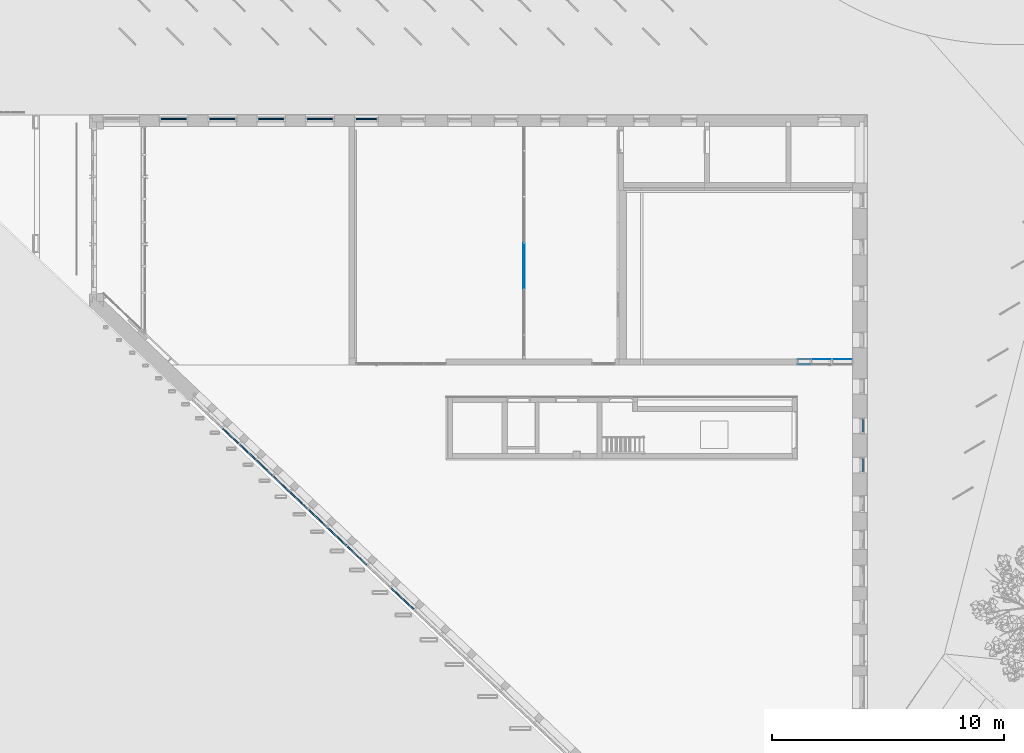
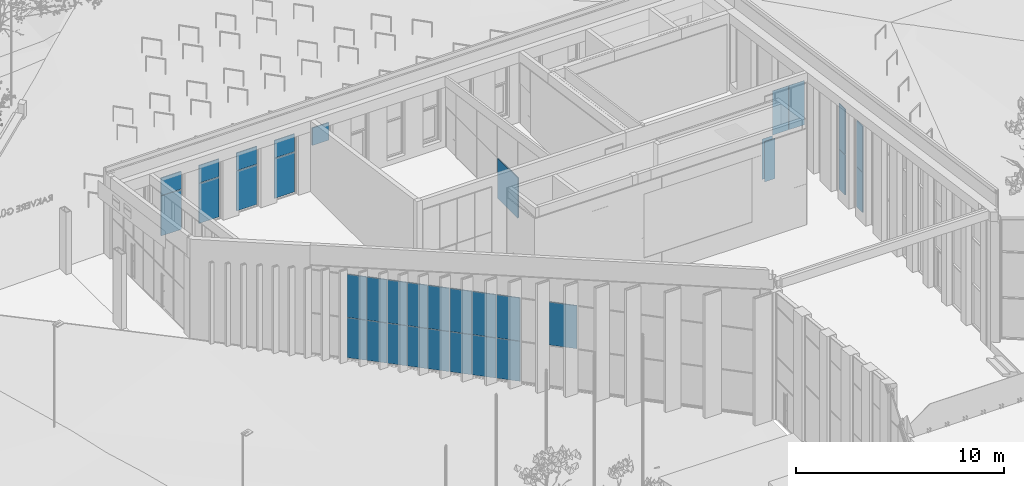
# One storey, part 51 of 246: 35 plates, 11 elements without a shape of their own.
"""IFC2X3 building model written with IfcOpenShell, lengths in millimetres."""

from ifc_helpers import new_model, entity, si_unit, converted_unit, derived_unit, money_unit, direction, frame, origin_with_axes, place, context, subcontext, project, spatial, faceted_brep, source, transform, mapped, material, type_object, element, aggregate, save


model = new_model("IFC2X3")

# Units and contexts
model_context = context("Model", 3, precision=0.01, world=origin_with_axes(), true_north=direction((0.0, 1.0)))
body_context = subcontext(model_context, "Body", "Model", "MODEL_VIEW")
ifc_project = project(units=[si_unit("LENGTHUNIT", "METRE", prefix="MILLI"), si_unit("AREAUNIT", "SQUARE_METRE"), si_unit("VOLUMEUNIT", "CUBIC_METRE"), converted_unit("PLANEANGLEUNIT", "DEGREE", entity("IfcPlaneAngleMeasure", 0.0174532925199), si_unit("PLANEANGLEUNIT", "RADIAN"), dimensions=[0, 0, 0, 0, 0, 0, 0]), si_unit("SOLIDANGLEUNIT", "STERADIAN"), money_unit("EUR"), converted_unit("TIMEUNIT", "Year", entity("IfcTimeMeasure", 31556926.0), si_unit("TIMEUNIT", "SECOND"), dimensions=[0, 0, 1, 0, 0, 0, 0]), si_unit("MASSUNIT", "GRAM", prefix="KILO"), si_unit("THERMODYNAMICTEMPERATUREUNIT", "DEGREE_CELSIUS"), si_unit("LUMINOUSINTENSITYUNIT", "LUMEN"), si_unit("ENERGYUNIT", "JOULE", prefix="MEGA"), derived_unit("THERMALCONDUCTANCEUNIT", [(si_unit("POWERUNIT", "WATT"), 1), (si_unit("LENGTHUNIT", "METRE"), -1), (si_unit("THERMODYNAMICTEMPERATUREUNIT", "KELVIN"), -1)]), derived_unit("SPECIFICHEATCAPACITYUNIT", [(si_unit("ENERGYUNIT", "JOULE"), 1), (si_unit("MASSUNIT", "GRAM", prefix="KILO"), -1), (si_unit("THERMODYNAMICTEMPERATUREUNIT", "KELVIN"), -1)]), derived_unit("MASSDENSITYUNIT", [(si_unit("MASSUNIT", "GRAM", prefix="KILO"), 1), (si_unit("VOLUMEUNIT", "CUBIC_METRE"), -1)])], contexts=[model_context])

# Site, building, storey
site_placement = place(None, origin_with_axes())
site = spatial("IfcSite", under=ifc_project, at=site_placement, Name="L.Koidula tn 11b", CompositionType="ELEMENT")
building_placement = place(site_placement, origin_with_axes())
building = spatial("IfcBuilding", under=site, at=building_placement, Name="Rakvere Riigigümnaasium", CompositionType="ELEMENT")
storey_placement = place(building_placement, origin_with_axes())
storey = spatial("IfcBuildingStorey", under=building, at=storey_placement, Name="1.korrus 0,00", CompositionType="ELEMENT", Elevation=0.0)

# Curtain wall, plates
curtain_wall_type = type_object("IfcCurtainWallType", Name="Curtain Wall Type", PredefinedType="NOTDEFINED")
curtain_wall_1_placement = place(storey_placement, frame((33997.0353268, 45217.6604975, 0.0), z_axis=(0.0, 0.0, 1.0), x_axis=(1.0, 0.0, 0.0)))
curtain_wall_1 = element("IfcCurtainWall", 1, at=curtain_wall_1_placement, inside=storey, type_object=curtain_wall_type, Name="KLF-02")
ifc_material_1 = material(Name="Klaaspakett 3x")
plate_type_1 = type_object("IfcPlateType", Name="Distinct Panel 976 x 2526 x 54", PredefinedType="CURTAIN_PANEL")
shared_shape_1 = source(origin_with_axes(), body_context, "Body", "Brep", [
    faceted_brep([(-987.999986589, 2538.00000447, -27.0), (-987.999986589, 2538.00000447, 27.0), (-11.9999955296, 2538.00000447, 27.0), (-11.9999955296, 2538.00000447, -27.0), (-987.999986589, 11.9999955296, -27.0), (-987.999986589, 11.9999955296, 27.0), (-11.9999955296, 11.9999955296, 27.0), (-11.9999955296, 11.9999955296, -27.0)], [[[0, 1, 2, 3]], [[4, 5, 1, 0]], [[1, 5, 6, 2]], [[3, 2, 6, 7]], [[0, 3, 7, 4]], [[7, 6, 5, 4]]]),
])
plate_1_placement = place(curtain_wall_1_placement, frame((-13793.2443544, 13066.996984, 3675.00031279), z_axis=(0.0, 0.0, 1.0), x_axis=(0.725960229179, -0.687736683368, 0.0)))
plate_1 = element("IfcPlate", 2, at=plate_1_placement, type_object=plate_type_1, material=ifc_material_1, Name="KLF-50-Klaasid", ObjectType="CURTAIN_PANEL", context=body_context, shape_type="MappedRepresentation", body=[
    mapped(shared_shape_1, transform((500.0, 0.0, -1275.0), x_axis=(1.0, 0.0, 0.0), y_axis=(0.0, 0.0, 1.0), z_axis=(0.0, -1.0, 0.0))),
])
plate_2_placement = place(curtain_wall_1_placement, frame((-13067.2841252, 12379.2603006, 3675.00031279), z_axis=(0.0, 0.0, 1.0), x_axis=(0.725960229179, -0.687736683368, 0.0)))
plate_2 = element("IfcPlate", 3, at=plate_2_placement, type_object=plate_type_1, material=ifc_material_1, Name="KLF-47-Klaasid", ObjectType="CURTAIN_PANEL", context=body_context, shape_type="MappedRepresentation", body=[
    mapped(shared_shape_1, transform((500.0, 0.0, -1275.0), x_axis=(1.0, 0.0, 0.0), y_axis=(0.0, 0.0, 1.0), z_axis=(0.0, -1.0, 0.0))),
])
plate_3_placement = place(curtain_wall_1_placement, frame((-12341.323896, 11691.5236173, 3675.00031279), z_axis=(0.0, 0.0, 1.0), x_axis=(0.725960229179, -0.687736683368, 0.0)))
plate_3 = element("IfcPlate", 4, at=plate_3_placement, type_object=plate_type_1, material=ifc_material_1, Name="KLF-44-Klaasid", ObjectType="CURTAIN_PANEL", context=body_context, shape_type="MappedRepresentation", body=[
    mapped(shared_shape_1, transform((500.0, 0.0, -1275.0), x_axis=(1.0, 0.0, 0.0), y_axis=(0.0, 0.0, 1.0), z_axis=(0.0, -1.0, 0.0))),
])
plate_4_placement = place(curtain_wall_1_placement, frame((-11615.3636669, 11003.7869339, 3675.00031279), z_axis=(0.0, 0.0, 1.0), x_axis=(0.725960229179, -0.687736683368, 0.0)))
plate_4 = element("IfcPlate", 5, at=plate_4_placement, type_object=plate_type_1, material=ifc_material_1, Name="KLF-41-Klaasid", ObjectType="CURTAIN_PANEL", context=body_context, shape_type="MappedRepresentation", body=[
    mapped(shared_shape_1, transform((500.0, 0.0, -1275.0), x_axis=(1.0, 0.0, 0.0), y_axis=(0.0, 0.0, 1.0), z_axis=(0.0, -1.0, 0.0))),
])
plate_type_2 = type_object("IfcPlateType", Name="Distinct Panel 976 x 2351 x 54", PredefinedType="CURTAIN_PANEL")
shared_shape_2 = source(origin_with_axes(), body_context, "Body", "Brep", [
    faceted_brep([(-987.999985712, 2388.00031122, -27.0), (-987.999985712, 2388.00031122, 27.0), (-12.0000015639, 2388.00031122, 27.0), (-12.0000015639, 2388.00031122, -27.0), (-987.999985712, 37.0000048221, -27.0), (-987.999985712, 37.0000048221, 27.0), (-12.0000015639, 37.0000048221, 27.0), (-12.0000015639, 37.0000048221, -27.0)], [[[0, 1, 2, 3]], [[4, 5, 1, 0]], [[1, 5, 6, 2]], [[3, 2, 6, 7]], [[0, 3, 7, 4]], [[7, 6, 5, 4]]]),
])
plate_5_placement = place(curtain_wall_1_placement, frame((-13793.2443544, 13066.996984, 1200.00015639), z_axis=(0.0, 0.0, 1.0), x_axis=(0.725960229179, -0.687736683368, 0.0)))
plate_5 = element("IfcPlate", 6, at=plate_5_placement, type_object=plate_type_2, material=ifc_material_1, Name="KLF-49-Klaasid", ObjectType="CURTAIN_PANEL", context=body_context, shape_type="MappedRepresentation", body=[
    mapped(shared_shape_2, transform((500.0, 0.0, -1200.00015639), x_axis=(1.0, 0.0, 0.0), y_axis=(0.0, 0.0, 1.0), z_axis=(0.0, -1.0, 0.0))),
])
plate_6_placement = place(curtain_wall_1_placement, frame((-13067.2841252, 12379.2603006, 1200.00015639), z_axis=(0.0, 0.0, 1.0), x_axis=(0.725960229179, -0.687736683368, 0.0)))
plate_6 = element("IfcPlate", 7, at=plate_6_placement, type_object=plate_type_2, material=ifc_material_1, Name="KLF-46-Klaasid", ObjectType="CURTAIN_PANEL", context=body_context, shape_type="MappedRepresentation", body=[
    mapped(shared_shape_2, transform((500.0, 0.0, -1200.00015639), x_axis=(1.0, 0.0, 0.0), y_axis=(0.0, 0.0, 1.0), z_axis=(0.0, -1.0, 0.0))),
])
plate_7_placement = place(curtain_wall_1_placement, frame((-12341.323896, 11691.5236173, 1200.00015639), z_axis=(0.0, 0.0, 1.0), x_axis=(0.725960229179, -0.687736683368, 0.0)))
plate_7 = element("IfcPlate", 8, at=plate_7_placement, type_object=plate_type_2, material=ifc_material_1, Name="KLF-43-Klaasid", ObjectType="CURTAIN_PANEL", context=body_context, shape_type="MappedRepresentation", body=[
    mapped(shared_shape_2, transform((500.0, 0.0, -1200.00015639), x_axis=(1.0, 0.0, 0.0), y_axis=(0.0, 0.0, 1.0), z_axis=(0.0, -1.0, 0.0))),
])
plate_8_placement = place(curtain_wall_1_placement, frame((-11615.3636669, 11003.7869339, 1200.00015639), z_axis=(0.0, 0.0, 1.0), x_axis=(0.725960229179, -0.687736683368, 0.0)))
plate_8 = element("IfcPlate", 9, at=plate_8_placement, type_object=plate_type_2, material=ifc_material_1, Name="KLF-40-Klaasid", ObjectType="CURTAIN_PANEL", context=body_context, shape_type="MappedRepresentation", body=[
    mapped(shared_shape_2, transform((500.0, 0.0, -1200.00015639), x_axis=(1.0, 0.0, 0.0), y_axis=(0.0, 0.0, 1.0), z_axis=(0.0, -1.0, 0.0))),
])

# Curtain wall, plate
curtain_wall_2_placement = place(storey_placement, frame((17749.5354722, 71934.4519938, -9.30410403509e-05), z_axis=(0.0, 0.0, 1.0), x_axis=(1.0, 0.0, 0.0)))
curtain_wall_2 = element("IfcCurtainWall", 10, at=curtain_wall_2_placement, inside=storey, type_object=curtain_wall_type, Name="KLF-08-02")
plate_type_3 = type_object("IfcPlateType", Name="Distinct Panel 1126 x 1031 x 54", PredefinedType="CURTAIN_PANEL")
shared_shape_3 = source(origin_with_axes(), body_context, "Body", "Brep", [
    faceted_brep([(-1163.00008663, 1043.00000617, -27.0), (-1163.00008663, 1043.00000617, 27.0), (-37.0000027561, 1043.00000617, 27.0), (-37.0000027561, 1043.00000617, -27.0), (-1163.00008663, 12.0000008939, -27.0), (-1163.00008663, 12.0000008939, 27.0), (-37.0000027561, 12.0000008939, 27.0), (-37.0000027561, 12.0000008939, -27.0)], [[[0, 1, 2, 3]], [[4, 5, 1, 0]], [[1, 5, 6, 2]], [[3, 2, 6, 7]], [[0, 3, 7, 4]], [[7, 6, 5, 4]]]),
])
plate_9_placement = place(curtain_wall_2_placement, frame((0.0, 0.0, 2940.00010034), z_axis=(0.0, 0.0, 1.0), x_axis=(-1.0, 0.0, 0.0)))
plate_9 = element("IfcPlate", 11, at=plate_9_placement, type_object=plate_type_3, material=ifc_material_1, Name="KLF-08-02-Klaasid", ObjectType="CURTAIN_PANEL", context=body_context, shape_type="MappedRepresentation", body=[
    mapped(shared_shape_3, transform((600.000044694, 0.0, -540.000007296), x_axis=(1.0, 0.0, 0.0), y_axis=(0.0, 0.0, 1.0), z_axis=(0.0, -1.0, 0.0))),
])

curtain_wall_3_placement = place(storey_placement, frame((19849.5354722, 71934.4519938, -9.30410403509e-05), z_axis=(0.0, 0.0, 1.0), x_axis=(1.0, 0.0, 0.0)))
curtain_wall_3 = element("IfcCurtainWall", 12, at=curtain_wall_3_placement, inside=storey, type_object=curtain_wall_type, Name="KLF-08-02")
plate_10_placement = place(curtain_wall_3_placement, frame((0.0, 0.0, 2940.00010034), z_axis=(0.0, 0.0, 1.0), x_axis=(-1.0, 0.0, 0.0)))
plate_10 = element("IfcPlate", 13, at=plate_10_placement, type_object=plate_type_3, material=ifc_material_1, Name="KLF-08-02-Klaasid", ObjectType="CURTAIN_PANEL", context=body_context, shape_type="MappedRepresentation", body=[
    mapped(shared_shape_3, transform((600.000044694, 0.0, -540.000007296), x_axis=(1.0, 0.0, 0.0), y_axis=(0.0, 0.0, 1.0), z_axis=(0.0, -1.0, 0.0))),
])

curtain_wall_4_placement = place(storey_placement, frame((21949.5354722, 71934.4519938, -9.30410403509e-05), z_axis=(0.0, 0.0, 1.0), x_axis=(1.0, 0.0, 0.0)))
curtain_wall_4 = element("IfcCurtainWall", 14, at=curtain_wall_4_placement, inside=storey, type_object=curtain_wall_type, Name="KLF-08-02")
plate_11_placement = place(curtain_wall_4_placement, frame((0.0, 0.0, 2940.00010034), z_axis=(0.0, 0.0, 1.0), x_axis=(-1.0, 0.0, 0.0)))
plate_11 = element("IfcPlate", 15, at=plate_11_placement, type_object=plate_type_3, material=ifc_material_1, Name="KLF-08-02-Klaasid", ObjectType="CURTAIN_PANEL", context=body_context, shape_type="MappedRepresentation", body=[
    mapped(shared_shape_3, transform((600.000044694, 0.0, -540.000007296), x_axis=(1.0, 0.0, 0.0), y_axis=(0.0, 0.0, 1.0), z_axis=(0.0, -1.0, 0.0))),
])

curtain_wall_5_placement = place(storey_placement, frame((24049.5354722, 71934.4519938, -9.30410403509e-05), z_axis=(0.0, 0.0, 1.0), x_axis=(1.0, 0.0, 0.0)))
curtain_wall_5 = element("IfcCurtainWall", 16, at=curtain_wall_5_placement, inside=storey, type_object=curtain_wall_type, Name="KLF-08-02")
plate_12_placement = place(curtain_wall_5_placement, frame((0.0, 0.0, 2940.00010034), z_axis=(0.0, 0.0, 1.0), x_axis=(-1.0, 0.0, 0.0)))
plate_12 = element("IfcPlate", 17, at=plate_12_placement, type_object=plate_type_3, material=ifc_material_1, Name="KLF-08-02-Klaasid", ObjectType="CURTAIN_PANEL", context=body_context, shape_type="MappedRepresentation", body=[
    mapped(shared_shape_3, transform((600.000044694, 0.0, -540.000007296), x_axis=(1.0, 0.0, 0.0), y_axis=(0.0, 0.0, 1.0), z_axis=(0.0, -1.0, 0.0))),
])

# Plate
plate_type_4 = type_object("IfcPlateType", Name="Distinct Panel 1126 x 2351 x 54", PredefinedType="CURTAIN_PANEL")
shared_shape_4 = source(origin_with_axes(), body_context, "Body", "Brep", [
    faceted_brep([(-1163.00008085, 2388.00009258, -27.0), (-1163.00008085, 2388.00009258, 27.0), (-37.0000014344, 2388.00009258, 27.0), (-37.0000014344, 2388.00009258, -27.0), (-1163.00008085, 37.0000014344, -27.0), (-1163.00008085, 37.0000014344, 27.0), (-37.0000014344, 37.0000014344, 27.0), (-37.0000014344, 37.0000014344, -27.0)], [[[0, 1, 2, 3]], [[4, 5, 1, 0]], [[1, 5, 6, 2]], [[3, 2, 6, 7]], [[0, 3, 7, 4]], [[7, 6, 5, 4]]]),
])
plate_13_placement = place(curtain_wall_2_placement, frame((3.6867575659e-07, 0.0, 1200.00004652), z_axis=(0.0, 0.0, 1.0), x_axis=(-1.0, 0.0, 0.0)))
plate_13 = element("IfcPlate", 18, at=plate_13_placement, type_object=plate_type_4, material=ifc_material_1, Name="KLF-08-02-Klaasid", ObjectType="CURTAIN_PANEL", context=body_context, shape_type="MappedRepresentation", body=[
    mapped(shared_shape_4, transform((600.000045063, 0.0, -1200.00004652), x_axis=(1.0, 0.0, 0.0), y_axis=(0.0, 0.0, 1.0), z_axis=(0.0, -1.0, 0.0))),
])

aggregate(curtain_wall_2, [plate_9, plate_13])

plate_14_placement = place(curtain_wall_3_placement, frame((3.6867575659e-07, 0.0, 1200.00004652), z_axis=(0.0, 0.0, 1.0), x_axis=(-1.0, 0.0, 0.0)))
plate_14 = element("IfcPlate", 19, at=plate_14_placement, type_object=plate_type_4, material=ifc_material_1, Name="KLF-08-02-Klaasid", ObjectType="CURTAIN_PANEL", context=body_context, shape_type="MappedRepresentation", body=[
    mapped(shared_shape_4, transform((600.000045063, 0.0, -1200.00004652), x_axis=(1.0, 0.0, 0.0), y_axis=(0.0, 0.0, 1.0), z_axis=(0.0, -1.0, 0.0))),
])

aggregate(curtain_wall_3, [plate_10, plate_14])

plate_15_placement = place(curtain_wall_4_placement, frame((3.68679309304e-07, 0.0, 1200.00004652), z_axis=(0.0, 0.0, 1.0), x_axis=(-1.0, 0.0, 0.0)))
plate_15 = element("IfcPlate", 20, at=plate_15_placement, type_object=plate_type_4, material=ifc_material_1, Name="KLF-08-02-Klaasid", ObjectType="CURTAIN_PANEL", context=body_context, shape_type="MappedRepresentation", body=[
    mapped(shared_shape_4, transform((600.000045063, 0.0, -1200.00004652), x_axis=(1.0, 0.0, 0.0), y_axis=(0.0, 0.0, 1.0), z_axis=(0.0, -1.0, 0.0))),
])

aggregate(curtain_wall_4, [plate_11, plate_15])

plate_16_placement = place(curtain_wall_5_placement, frame((3.6867575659e-07, 0.0, 1200.00004652), z_axis=(0.0, 0.0, 1.0), x_axis=(-1.0, 0.0, 0.0)))
plate_16 = element("IfcPlate", 21, at=plate_16_placement, type_object=plate_type_4, material=ifc_material_1, Name="KLF-08-02-Klaasid", ObjectType="CURTAIN_PANEL", context=body_context, shape_type="MappedRepresentation", body=[
    mapped(shared_shape_4, transform((600.000045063, 0.0, -1200.00004652), x_axis=(1.0, 0.0, 0.0), y_axis=(0.0, 0.0, 1.0), z_axis=(0.0, -1.0, 0.0))),
])

aggregate(curtain_wall_5, [plate_12, plate_16])

plate_type_5 = type_object("IfcPlateType", Name="Distinct Panel 1376 x 2526 x 54", PredefinedType="CURTAIN_PANEL")
shared_shape_5 = source(origin_with_axes(), body_context, "Body", "Brep", [
    faceted_brep([(-1388.00000224, 2538.00000447, -27.0), (-1388.00000224, 2538.00000447, 27.0), (-11.9999955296, 2538.00000447, 27.0), (-11.9999955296, 2538.00000447, -27.0), (-1388.00000224, 11.9999955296, -27.0), (-1388.00000224, 11.9999955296, 27.0), (-11.9999955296, 11.9999955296, 27.0), (-11.9999955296, 11.9999955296, -27.0)], [[[0, 1, 2, 3]], [[4, 5, 1, 0]], [[1, 5, 6, 2]], [[3, 2, 6, 7]], [[0, 3, 7, 4]], [[7, 6, 5, 4]]]),
])
plate_17_placement = place(curtain_wall_1_placement, frame((-6388.45001677, 6052.08281364, 3675.00031279), z_axis=(0.0, 0.0, 1.0), x_axis=(0.725960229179, -0.687736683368, 0.0)))
plate_17 = element("IfcPlate", 22, at=plate_17_placement, type_object=plate_type_5, material=ifc_material_1, Name="KLF-23-Klaasid", ObjectType="CURTAIN_PANEL", context=body_context, shape_type="MappedRepresentation", body=[
    mapped(shared_shape_5, transform((700.0, 0.0, -1275.0), x_axis=(1.0, 0.0, 0.0), y_axis=(0.0, 0.0, 1.0), z_axis=(0.0, -1.0, 0.0))),
])

plate_type_6 = type_object("IfcPlateType", Name="Distinct Panel 1076 x 2526 x 54", PredefinedType="CURTAIN_PANEL")
shared_shape_6 = source(origin_with_axes(), body_context, "Body", "Brep", [
    faceted_brep([(-1088.0, 2538.00000447, -27.0), (-1088.0, 2538.00000447, 27.0), (-11.9999955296, 2538.00000447, 27.0), (-11.9999955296, 2538.00000447, -27.0), (-1088.0, 11.9999955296, -27.0), (-1088.0, 11.9999955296, 27.0), (-11.9999955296, 11.9999955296, 27.0), (-11.9999955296, 11.9999955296, -27.0)], [[[0, 1, 2, 3]], [[4, 5, 1, 0]], [[1, 5, 6, 2]], [[3, 2, 6, 7]], [[0, 3, 7, 4]], [[7, 6, 5, 4]]]),
])
plate_18_placement = place(curtain_wall_1_placement, frame((-10853.1054262, 10281.6634164, 3675.00031279), z_axis=(0.0, 0.0, 1.0), x_axis=(0.725960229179, -0.687736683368, 0.0)))
plate_18 = element("IfcPlate", 23, at=plate_18_placement, type_object=plate_type_6, material=ifc_material_1, Name="KLF-38-Klaasid", ObjectType="CURTAIN_PANEL", context=body_context, shape_type="MappedRepresentation", body=[
    mapped(shared_shape_6, transform((550.0, 0.0, -1275.0), x_axis=(1.0, 0.0, 0.0), y_axis=(0.0, 0.0, 1.0), z_axis=(0.0, -1.0, 0.0))),
])

plate_19_placement = place(curtain_wall_1_placement, frame((-10054.5491741, 9525.15306465, 3675.00031279), z_axis=(0.0, 0.0, 1.0), x_axis=(0.725960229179, -0.687736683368, 0.0)))
plate_19 = element("IfcPlate", 24, at=plate_19_placement, type_object=plate_type_6, material=ifc_material_1, Name="KLF-35-Klaasid", ObjectType="CURTAIN_PANEL", context=body_context, shape_type="MappedRepresentation", body=[
    mapped(shared_shape_6, transform((550.0, 0.0, -1275.0), x_axis=(1.0, 0.0, 0.0), y_axis=(0.0, 0.0, 1.0), z_axis=(0.0, -1.0, 0.0))),
])

plate_type_7 = type_object("IfcPlateType", Name="Distinct Panel 1076 x 2351 x 54", PredefinedType="CURTAIN_PANEL")
shared_shape_7 = source(origin_with_axes(), body_context, "Body", "Brep", [
    faceted_brep([(-1087.99999875, 2388.00031122, -27.0), (-1087.99999875, 2388.00031122, 27.0), (-12.0000015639, 2388.00031122, 27.0), (-12.0000015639, 2388.00031122, -27.0), (-1087.99999875, 37.0000048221, -27.0), (-1087.99999875, 37.0000048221, 27.0), (-12.0000015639, 37.0000048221, 27.0), (-12.0000015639, 37.0000048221, -27.0)], [[[0, 1, 2, 3]], [[4, 5, 1, 0]], [[1, 5, 6, 2]], [[3, 2, 6, 7]], [[0, 3, 7, 4]], [[7, 6, 5, 4]]]),
])
plate_20_placement = place(curtain_wall_1_placement, frame((-10853.1054262, 10281.6634164, 1200.00015639), z_axis=(0.0, 0.0, 1.0), x_axis=(0.725960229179, -0.687736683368, 0.0)))
plate_20 = element("IfcPlate", 25, at=plate_20_placement, type_object=plate_type_7, material=ifc_material_1, Name="KLF-37-Klaasid", ObjectType="CURTAIN_PANEL", context=body_context, shape_type="MappedRepresentation", body=[
    mapped(shared_shape_7, transform((550.0, 0.0, -1200.00015639), x_axis=(1.0, 0.0, 0.0), y_axis=(0.0, 0.0, 1.0), z_axis=(0.0, -1.0, 0.0))),
])

plate_21_placement = place(curtain_wall_1_placement, frame((-10054.5491741, 9525.15306465, 1200.00015639), z_axis=(0.0, 0.0, 1.0), x_axis=(0.725960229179, -0.687736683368, 0.0)))
plate_21 = element("IfcPlate", 26, at=plate_21_placement, type_object=plate_type_7, material=ifc_material_1, Name="KLF-34-Klaasid", ObjectType="CURTAIN_PANEL", context=body_context, shape_type="MappedRepresentation", body=[
    mapped(shared_shape_7, transform((550.0, 0.0, -1200.00015639), x_axis=(1.0, 0.0, 0.0), y_axis=(0.0, 0.0, 1.0), z_axis=(0.0, -1.0, 0.0))),
])

plate_type_8 = type_object("IfcPlateType", Name="Distinct Panel 1176 x 2526 x 54", PredefinedType="CURTAIN_PANEL")
shared_shape_8 = source(origin_with_axes(), body_context, "Body", "Brep", [
    faceted_brep([(-1188.00001341, 2538.00000447, -27.0), (-1188.00001341, 2538.00000447, 27.0), (-11.9999955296, 2538.00000447, 27.0), (-11.9999955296, 2538.00000447, -27.0), (-1188.00001341, 11.9999955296, -27.0), (-1188.00001341, 11.9999955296, 27.0), (-11.9999955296, 11.9999955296, 27.0), (-11.9999955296, 11.9999955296, -27.0)], [[[0, 1, 2, 3]], [[4, 5, 1, 0]], [[1, 5, 6, 2]], [[3, 2, 6, 7]], [[0, 3, 7, 4]], [[7, 6, 5, 4]]]),
])
plate_22_placement = place(curtain_wall_1_placement, frame((-9219.69491057, 8734.25587878, 3675.00031279), z_axis=(0.0, 0.0, 1.0), x_axis=(0.725960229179, -0.687736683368, 0.0)))
plate_22 = element("IfcPlate", 27, at=plate_22_placement, type_object=plate_type_8, material=ifc_material_1, Name="KLF-32-Klaasid", ObjectType="CURTAIN_PANEL", context=body_context, shape_type="MappedRepresentation", body=[
    mapped(shared_shape_8, transform((600.0, 0.0, -1275.0), x_axis=(1.0, 0.0, 0.0), y_axis=(0.0, 0.0, 1.0), z_axis=(0.0, -1.0, 0.0))),
])

plate_23_placement = place(curtain_wall_1_placement, frame((-8348.54263556, 7908.97185874, 3675.00031279), z_axis=(0.0, 0.0, 1.0), x_axis=(0.725960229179, -0.687736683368, 0.0)))
plate_23 = element("IfcPlate", 28, at=plate_23_placement, type_object=plate_type_8, material=ifc_material_1, Name="KLF-29-Klaasid", ObjectType="CURTAIN_PANEL", context=body_context, shape_type="MappedRepresentation", body=[
    mapped(shared_shape_8, transform((600.0, 0.0, -1275.0), x_axis=(1.0, 0.0, 0.0), y_axis=(0.0, 0.0, 1.0), z_axis=(0.0, -1.0, 0.0))),
])

plate_type_9 = type_object("IfcPlateType", Name="Distinct Panel 1176 x 2351 x 54", PredefinedType="CURTAIN_PANEL")
shared_shape_9 = source(origin_with_axes(), body_context, "Body", "Brep", [
    faceted_brep([(-1188.00001178, 2388.00031122, -27.0), (-1188.00001178, 2388.00031122, 27.0), (-12.0000015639, 2388.00031122, 27.0), (-12.0000015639, 2388.00031122, -27.0), (-1188.00001178, 37.0000048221, -27.0), (-1188.00001178, 37.0000048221, 27.0), (-12.0000015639, 37.0000048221, 27.0), (-12.0000015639, 37.0000048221, -27.0)], [[[0, 1, 2, 3]], [[4, 5, 1, 0]], [[1, 5, 6, 2]], [[3, 2, 6, 7]], [[0, 3, 7, 4]], [[7, 6, 5, 4]]]),
])
plate_24_placement = place(curtain_wall_1_placement, frame((-9219.69491057, 8734.25587878, 1200.00015639), z_axis=(0.0, 0.0, 1.0), x_axis=(0.725960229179, -0.687736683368, 0.0)))
plate_24 = element("IfcPlate", 29, at=plate_24_placement, type_object=plate_type_9, material=ifc_material_1, Name="KLF-31-Klaasid", ObjectType="CURTAIN_PANEL", context=body_context, shape_type="MappedRepresentation", body=[
    mapped(shared_shape_9, transform((600.0, 0.0, -1200.00015639), x_axis=(1.0, 0.0, 0.0), y_axis=(0.0, 0.0, 1.0), z_axis=(0.0, -1.0, 0.0))),
])

plate_25_placement = place(curtain_wall_1_placement, frame((-8348.54263556, 7908.97185874, 1200.00015639), z_axis=(0.0, 0.0, 1.0), x_axis=(0.725960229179, -0.687736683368, 0.0)))
plate_25 = element("IfcPlate", 30, at=plate_25_placement, type_object=plate_type_9, material=ifc_material_1, Name="KLF-28-Klaasid", ObjectType="CURTAIN_PANEL", context=body_context, shape_type="MappedRepresentation", body=[
    mapped(shared_shape_9, transform((600.0, 0.0, -1200.00015639), x_axis=(1.0, 0.0, 0.0), y_axis=(0.0, 0.0, 1.0), z_axis=(0.0, -1.0, 0.0))),
])

aggregate(curtain_wall_1, [plate_17, plate_1, plate_5, plate_2, plate_6, plate_3, plate_7, plate_4, plate_8, plate_18, plate_20, plate_19, plate_21, plate_22, plate_24, plate_23, plate_25])

# Curtain wall, plate
curtain_wall_6_placement = place(storey_placement, frame((47433.9999935, 57020.45466, -7.96066081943e-05), z_axis=(0.0, 0.0, 1.0), x_axis=(1.0, 0.0, 0.0)))
curtain_wall_6 = element("IfcCurtainWall", 31, at=curtain_wall_6_placement, inside=storey, type_object=curtain_wall_type, Name="KLF-07-08")
plate_type_10 = type_object("IfcPlateType", Name="Distinct Panel 576 x 2676 x 54", PredefinedType="CURTAIN_PANEL")
shared_shape_10 = source(origin_with_axes(), body_context, "Body", "Brep", [
    faceted_brep([(-692.999999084, 2688.00001341, -27.0), (-692.999999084, 2688.00001341, 27.0), (-116.999999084, 2688.00001341, 27.0), (-116.999999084, 2688.00001341, -27.0), (-693.000160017, 11.9999865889, -27.0), (-693.000160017, 11.9999865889, 27.0), (-116.999999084, 11.9999865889, 27.0), (-116.999999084, 11.9999865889, -27.0)], [[[0, 1, 2, 3]], [[4, 5, 1, 0]], [[1, 5, 6, 2]], [[3, 2, 6, 7]], [[0, 3, 7, 4]], [[7, 6, 5, 4]]]),
])
plate_26_placement = place(curtain_wall_6_placement, frame((0.0, -4.3495980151e-05, 3750.00007961), z_axis=(0.0, 0.0, 1.0), x_axis=(0.0, 1.0, 0.0)))
plate_26 = element("IfcPlate", 32, at=plate_26_placement, type_object=plate_type_10, material=ifc_material_1, Name="KLF-07-08-Klaasid", ObjectType="CURTAIN_PANEL", context=body_context, shape_type="MappedRepresentation", body=[
    mapped(shared_shape_10, transform((405.000032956, 0.0, -1350.0), x_axis=(1.0, 0.0, 0.0), y_axis=(0.0, 0.0, 1.0), z_axis=(0.0, -1.0, 0.0))),
])

curtain_wall_7_placement = place(storey_placement, frame((47433.9999935, 58720.4546292, -7.96830551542e-05), z_axis=(0.0, 0.0, 1.0), x_axis=(1.0, 0.0, 0.0)))
curtain_wall_7 = element("IfcCurtainWall", 33, at=curtain_wall_7_placement, inside=storey, type_object=curtain_wall_type, Name="KLF-07-09")
plate_27_placement = place(curtain_wall_7_placement, frame((0.0, 0.0, 3750.00007968), z_axis=(0.0, 0.0, 1.0), x_axis=(0.0, 1.0, 0.0)))
plate_27 = element("IfcPlate", 34, at=plate_27_placement, type_object=plate_type_10, material=ifc_material_1, Name="KLF-07-09_Klaasid", ObjectType="CURTAIN_PANEL", context=body_context, shape_type="MappedRepresentation", body=[
    mapped(shared_shape_10, transform((405.000021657, 0.0, -1350.0), x_axis=(1.0, 0.0, 0.0), y_axis=(0.0, 0.0, 1.0), z_axis=(0.0, -1.0, 0.0))),
])

# Plate
plate_type_11 = type_object("IfcPlateType", Name="Distinct Panel 576 x 2351 x 54", PredefinedType="CURTAIN_PANEL")
shared_shape_11 = source(origin_with_axes(), body_context, "Body", "Brep", [
    faceted_brep([(-693.000131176, 2388.00007921, -27.0), (-693.000131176, 2388.00007921, 27.0), (-117.000004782, 2388.00007921, 27.0), (-117.000004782, 2388.00007921, -27.0), (-693.00030999, 37.0000012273, -27.0), (-693.00030999, 37.0000012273, 27.0), (-117.000004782, 37.0000012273, 27.0), (-117.000004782, 37.0000012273, -27.0)], [[[0, 1, 2, 3]], [[4, 5, 1, 0]], [[1, 5, 6, 2]], [[3, 2, 6, 7]], [[0, 3, 7, 4]], [[7, 6, 5, 4]]]),
])
plate_28_placement = place(curtain_wall_6_placement, frame((0.0, -0.000126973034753, 1200.0000398), z_axis=(0.0, 0.0, 1.0), x_axis=(0.0, 1.0, 0.0)))
plate_28 = element("IfcPlate", 35, at=plate_28_placement, type_object=plate_type_11, material=ifc_material_1, Name="KLF-07-08-Klaasid", ObjectType="CURTAIN_PANEL", context=body_context, shape_type="MappedRepresentation", body=[
    mapped(shared_shape_11, transform((405.000116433, 0.0, -1200.0000398), x_axis=(1.0, 0.0, 0.0), y_axis=(0.0, 0.0, 1.0), z_axis=(0.0, -1.0, 0.0))),
])

aggregate(curtain_wall_6, [plate_26, plate_28])

plate_29_placement = place(curtain_wall_7_placement, frame((0.0, -6.40173354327e-05, 1200.00003984), z_axis=(0.0, 0.0, 1.0), x_axis=(0.0, 1.0, 0.0)))
plate_29 = element("IfcPlate", 36, at=plate_29_placement, type_object=plate_type_11, material=ifc_material_1, Name="KLF-07-09_Klaasid", ObjectType="CURTAIN_PANEL", context=body_context, shape_type="MappedRepresentation", body=[
    mapped(shared_shape_11, transform((405.000085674, 0.0, -1200.00003984), x_axis=(1.0, 0.0, 0.0), y_axis=(0.0, 0.0, 1.0), z_axis=(0.0, -1.0, 0.0))),
])

aggregate(curtain_wall_7, [plate_27, plate_29])

# Curtain wall, plate
curtain_wall_8_placement = place(storey_placement, frame((26049.5354659, 71934.4519938, 100.0), z_axis=(0.0, 0.0, 1.0), x_axis=(1.0, 0.0, 0.0)))
curtain_wall_8 = element("IfcCurtainWall", 37, at=curtain_wall_8_placement, inside=storey, type_object=curtain_wall_type, Name="KLF-08-03")
plate_type_12 = type_object("IfcPlateType", Name="Distinct Panel 926 x 1031 x 54", PredefinedType="CURTAIN_PANEL")
shared_shape_12 = source(origin_with_axes(), body_context, "Body", "Brep", [
    faceted_brep([(-963.000051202, 1042.99989501, -27.0), (-963.000051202, 1042.99989501, 27.0), (-36.9999999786, 1042.99989501, 27.0), (-36.9999999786, 1042.99989501, -27.0), (-963.000051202, 11.9999934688, -27.0), (-963.000051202, 11.9999934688, 27.0), (-36.9999999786, 11.9999934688, 27.0), (-36.9999999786, 11.9999934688, -27.0)], [[[0, 1, 2, 3]], [[4, 5, 1, 0]], [[1, 5, 6, 2]], [[3, 2, 6, 7]], [[0, 3, 7, 4]], [[7, 6, 5, 4]]]),
])
plate_30_placement = place(curtain_wall_8_placement, frame((0.0, 0.0, 2840.0000523), z_axis=(0.0, 0.0, 1.0), x_axis=(-1.0, 0.0, 0.0)))
plate_30 = element("IfcPlate", 38, at=plate_30_placement, type_object=plate_type_12, material=ifc_material_1, Name="KLF-08-06-Klaasid", ObjectType="CURTAIN_PANEL", context=body_context, shape_type="MappedRepresentation", body=[
    mapped(shared_shape_12, transform((500.000038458, 0.0, -539.999975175), x_axis=(1.0, 0.0, 0.0), y_axis=(0.0, 0.0, 1.0), z_axis=(0.0, -1.0, 0.0))),
])
aggregate(curtain_wall_8, [plate_30])

curtain_wall_9_placement = place(storey_placement, frame((32835.0202258, 67589.2016838, 0.0), z_axis=(0.0, 0.0, 1.0), x_axis=(1.0, 0.0, 0.0)))
curtain_wall_9 = element("IfcCurtainWall", 39, at=curtain_wall_9_placement, inside=storey, type_object=curtain_wall_type, Name="SKLF-02")
ifc_material_2 = material(Name="VKR-05_Klaas")
plate_type_13 = type_object("IfcPlateType", Name="Siseklaasfassaad - Klaas-Doubleline30 1953 x 2368 x 17", PredefinedType="CURTAIN_PANEL")
shared_shape_13 = source(origin_with_axes(), body_context, "Body", "Brep", [
    faceted_brep([(1970.49996424, 2382.99996424, -37.0), (17.0000357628, 2382.99996424, -37.0), (17.0000357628, 2382.99996424, -25.0), (1970.49996424, 2382.99996424, -25.0), (1970.49996424, 15.0, -37.0), (17.0000357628, 15.0, -37.0), (17.0000357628, 15.0, -25.0), (1970.49996424, 15.0, -25.0)], [[[0, 1, 2, 3]], [[0, 4, 5, 1]], [[1, 5, 6, 2]], [[3, 2, 6, 7]], [[4, 0, 3, 7]], [[5, 4, 7, 6]]]),
    faceted_brep([(1970.49996424, 2382.99996424, 15.0), (17.0000357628, 2382.99996424, 15.0), (17.0000357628, 2382.99996424, 27.0), (1970.49996424, 2382.99996424, 27.0), (1970.49996424, 15.0, 15.0), (17.0000357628, 15.0, 15.0), (17.0000357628, 15.0, 27.0), (1970.49996424, 15.0, 27.0)], [[[0, 1, 2, 3]], [[0, 4, 5, 1]], [[1, 5, 6, 2]], [[3, 2, 6, 7]], [[4, 0, 3, 7]], [[5, 4, 7, 6]]]),
])
plate_31_placement = place(curtain_wall_9_placement, frame((0.0, -1987.5, 1200.0), z_axis=(0.0, 0.0, 1.0), x_axis=(0.0, 1.0, 0.0)))
plate_31 = element("IfcPlate", 40, at=plate_31_placement, type_object=plate_type_13, material=ifc_material_2, Name="Panel-Siseklaasf-037", ObjectType="CURTAIN_PANEL", context=body_context, shape_type="MappedRepresentation", body=[
    mapped(shared_shape_13, transform((993.75, 0.0, -1200.0), x_axis=(-1.0, 0.0, 0.0), y_axis=(0.0, 0.0, 1.0), z_axis=(0.0, 1.0, 0.0))),
])
aggregate(curtain_wall_9, [plate_31])

curtain_wall_10_placement = place(storey_placement, frame((46459.9999921, 61346.4546496, -4.47035262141e-05), z_axis=(0.0, 0.0, 1.0), x_axis=(1.0, 0.0, 0.0)))
curtain_wall_10 = element("IfcCurtainWall", 41, at=curtain_wall_10_placement, inside=storey, type_object=curtain_wall_type, Name="SKLF-04")
plate_type_14 = type_object("IfcPlateType", Name="Siseklaasfassaad - Klaas 17 4 x 2370 x 17", PredefinedType="CURTAIN_PANEL")
shared_shape_14 = source(origin_with_axes(), body_context, "Body", "Brep", [
    faceted_brep([(580.000010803, 2385.00000866, -15.5), (15.0000002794, 2385.00000866, -15.5), (15.0000002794, 2385.00000866, 1.5), (580.000010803, 2385.00000866, 1.5), (580.000010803, 15.0000002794, -15.5), (15.0000002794, 15.0000002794, -15.5), (15.0000002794, 15.0000002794, 1.5), (580.000010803, 15.0000002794, 1.5)], [[[0, 1, 2, 3]], [[0, 4, 5, 1]], [[1, 5, 6, 2]], [[3, 2, 6, 7]], [[4, 0, 3, 7]], [[5, 4, 7, 6]]]),
])
plate_32_placement = place(curtain_wall_10_placement, frame((-1604.13333709, 0.0, 1440.00002682), z_axis=(0.0, 0.0, 1.0), x_axis=(-1.0, 0.0, 0.0)))
plate_32 = element("IfcPlate", 42, at=plate_32_placement, type_object=plate_type_14, material=ifc_material_2, Name="Panel-Siseklaasf-001", ObjectType="CURTAIN_PANEL", context=body_context, shape_type="MappedRepresentation", body=[
    mapped(shared_shape_14, transform((235.866663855, 0.0, -1440.00002682), x_axis=(-1.0, 0.0, 0.0), y_axis=(0.0, 0.0, 1.0), z_axis=(0.0, 1.0, 0.0))),
])
aggregate(curtain_wall_10, [plate_32])

# Curtain wall, plates
curtain_wall_11_placement = place(storey_placement, frame((46549.9999923, 61580.5357918, -4.47035262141e-05), z_axis=(0.0, 0.0, 1.0), x_axis=(1.0, 0.0, 0.0)))
curtain_wall_11 = element("IfcCurtainWall", 43, at=curtain_wall_11_placement, inside=storey, type_object=curtain_wall_type, Name="SKLF-05")
plate_type_15 = type_object("IfcPlateType", Name="Siseklaasfassaad - Klaas 565 x 2370 x 17", PredefinedType="CURTAIN_PANEL")
plate_33_placement = place(curtain_wall_11_placement, frame((-1640.00000119, 0.0, 1200.00002235), z_axis=(0.0, 0.0, 1.0), x_axis=(-1.0, 0.0, 0.0)))
plate_33 = element("IfcPlate", 44, at=plate_33_placement, type_object=plate_type_15, material=ifc_material_2, Name="Panel-Siseklaasf-035", ObjectType="CURTAIN_PANEL", context=body_context, shape_type="MappedRepresentation", body=[
    mapped(shared_shape_14, transform((290.0, 0.0, -1200.00002235), x_axis=(-1.0, 0.0, 0.0), y_axis=(0.0, 0.0, 1.0), z_axis=(0.0, 1.0, 0.0))),
])
plate_type_16 = type_object("IfcPlateType", Name="Siseklaasfassaad - Klaas 870 x 2601 x 17", PredefinedType="CURTAIN_PANEL")
shared_shape_15 = source(origin_with_axes(), body_context, "Body", "Brep", [
    faceted_brep([(885.000008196, 2616.4982439, -15.5), (15.0000342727, 2616.4982439, -15.5), (15.0000342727, 2616.4982439, 1.5), (885.000008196, 2616.4982439, 1.5), (885.000008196, 15.0000342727, -15.5), (15.0000342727, 15.0000342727, -15.5), (15.0000342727, 15.0000342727, 1.5), (885.000008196, 15.0000342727, 1.5)], [[[0, 1, 2, 3]], [[0, 4, 5, 1]], [[1, 5, 6, 2]], [[3, 2, 6, 7]], [[4, 0, 3, 7]], [[5, 4, 7, 6]]]),
])
plate_34_placement = place(curtain_wall_11_placement, frame((0.0, 0.0, 3725.0000447), z_axis=(0.0, 0.0, 1.0), x_axis=(-1.0, 0.0, 0.0)))
plate_34 = element("IfcPlate", 45, at=plate_34_placement, type_object=plate_type_16, material=ifc_material_2, Name="Panel-Siseklaasf-033", ObjectType="CURTAIN_PANEL", context=body_context, shape_type="MappedRepresentation", body=[
    mapped(shared_shape_15, transform((450.000001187, 0.0, -1325.0), x_axis=(-1.0, 0.0, 0.0), y_axis=(0.0, 0.0, 1.0), z_axis=(0.0, 1.0, 0.0))),
])
plate_35_placement = place(curtain_wall_11_placement, frame((-900.000001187, 0.0, 3725.0000447), z_axis=(0.0, 0.0, 1.0), x_axis=(-1.0, 0.0, 0.0)))
plate_35 = element("IfcPlate", 46, at=plate_35_placement, type_object=plate_type_16, material=ifc_material_2, Name="Panel-Siseklaasf-032", ObjectType="CURTAIN_PANEL", context=body_context, shape_type="MappedRepresentation", body=[
    mapped(shared_shape_15, transform((450.0, 0.0, -1325.0), x_axis=(-1.0, 0.0, 0.0), y_axis=(0.0, 0.0, 1.0), z_axis=(0.0, 1.0, 0.0))),
])
aggregate(curtain_wall_11, [plate_34, plate_35, plate_33])

save(model, "model.ifc")
